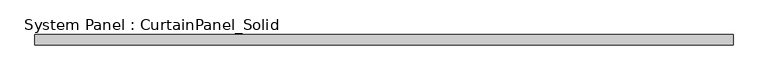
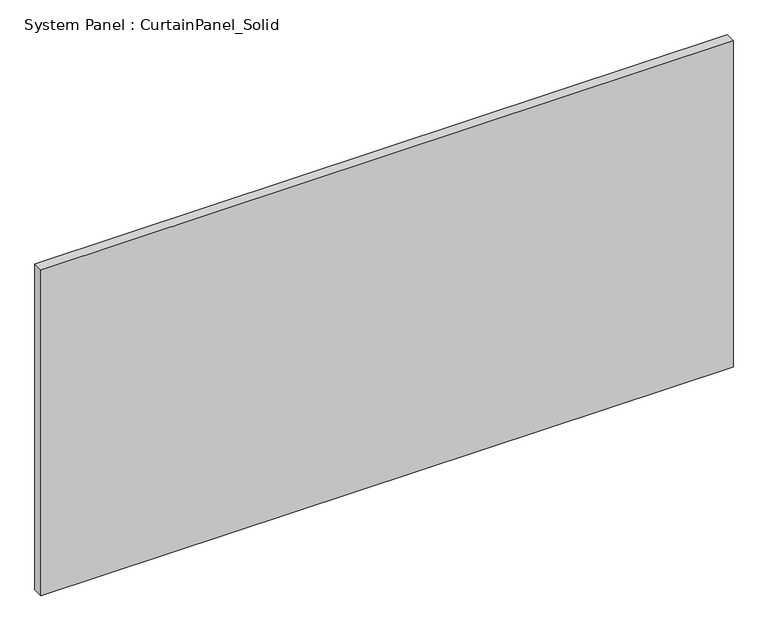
"""IFC4 building model written with IfcOpenShell, lengths in millimetres: plate geometry, System Panel : CurtainPanel_Solid."""

from ifc_helpers import new_model, si_unit, origin, origin_with_axes, place, context, project, spatial, polyline, outline, extrude, source, transform, mapped, element, save


def system_panel_curtainpanel_solid_c949ee80(model_context):
    return source(origin(), model_context, "Body", "SweptSolid", [
        extrude(outline(polyline([(828.0555557, -12.5), (-828.0555557, -12.5), (-828.0555557, 12.5), (828.0555557, 12.5), (828.0555557, -12.5)])), origin_with_axes(), (0.0, 0.0, 1.0), 825.0),
    ])


if __name__ == "__main__":
    model = new_model("IFC4")
    model_context = context("Model", 3, world=origin())
    ifc_project = project(units=[si_unit("LENGTHUNIT", "METRE", prefix="MILLI")], contexts=[model_context])
    site = spatial("IfcSite", under=ifc_project)
    building = spatial("IfcBuilding", under=site)
    placement = place(None, origin())
    system_panel_curtainpanel_solid_shape = system_panel_curtainpanel_solid_c949ee80(model_context)
    element("IfcPlate", 1, ObjectType="System Panel : CurtainPanel_Solid", at=placement, inside=building, context=model_context, shape_type="MappedRepresentation", body=[
        mapped(system_panel_curtainpanel_solid_shape, transform((0.0, 0.0, 0.0), x_axis=(1.0, 0.0, 0.0), y_axis=(0.0, 1.0, 0.0), z_axis=(0.0, 0.0, 1.0))),
    ])
    save(model, "model.ifc")
